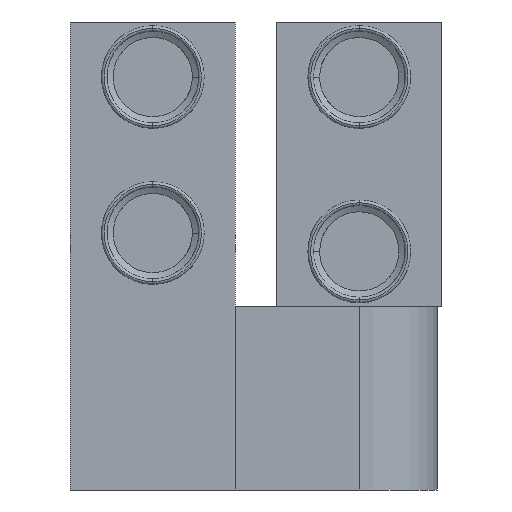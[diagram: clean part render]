
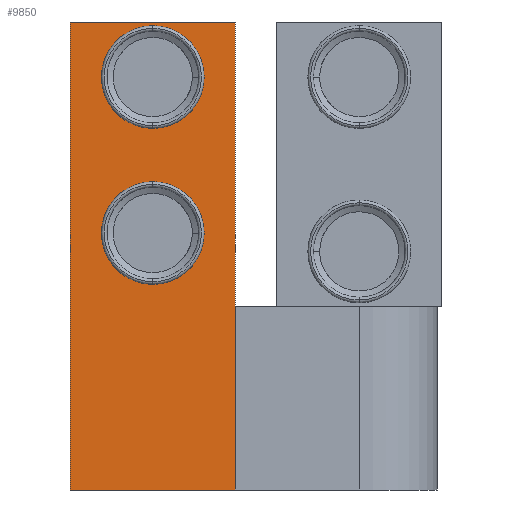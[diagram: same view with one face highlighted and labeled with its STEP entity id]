
A CAD part, front view. The second image highlights one B-rep face of the part: STEP entity #9850.
In plain terms, the highlighted planar face has unit normal (0, -1, 0).
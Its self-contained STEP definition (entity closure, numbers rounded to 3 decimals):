
#53 = VERTEX_POINT ( 'NONE', #2839 ) ;
#62 = DIRECTION ( 'NONE',  ( 0., -1., 0. ) ) ;
#113 = CARTESIAN_POINT ( 'NONE',  ( -3.819, -4.284, 12.75 ) ) ;
#149 = LINE ( 'NONE', #5270, #2324 ) ;
#269 = CIRCLE ( 'NONE', #1730, 2.8 ) ;
#612 = EDGE_LOOP ( 'NONE', ( #7406, #10111 ) ) ;
#773 = CARTESIAN_POINT ( 'NONE',  ( 0.681, -4.284, 12.55 ) ) ;
#892 = CARTESIAN_POINT ( 'NONE',  ( 5.181, -4.284, 12.75 ) ) ;
#1074 = DIRECTION ( 'NONE',  ( 0., 0., -1. ) ) ;
#1407 = VECTOR ( 'NONE', #1074, 1000. ) ;
#1501 = EDGE_CURVE ( 'NONE', #7723, #6616, #269, .T. ) ;
#1711 = LINE ( 'NONE', #5173, #11206 ) ;
#1730 = AXIS2_PLACEMENT_3D ( 'NONE', #10504, #6840, #11351 ) ;
#1808 = AXIS2_PLACEMENT_3D ( 'NONE', #11320, #8714, #2464 ) ;
#1819 = ORIENTED_EDGE ( 'NONE', *, *, #2996, .F. ) ;
#2077 = EDGE_LOOP ( 'NONE', ( #11340, #4410 ) ) ;
#2142 = CARTESIAN_POINT ( 'NONE',  ( 0.681, -4.284, -1.55 ) ) ;
#2324 = VECTOR ( 'NONE', #8856, 1000. ) ;
#2454 = ORIENTED_EDGE ( 'NONE', *, *, #4275, .T. ) ;
#2464 = DIRECTION ( 'NONE',  ( 0., 0., 1. ) ) ;
#2653 = CARTESIAN_POINT ( 'NONE',  ( -3.819, -4.284, 12.75 ) ) ;
#2839 = CARTESIAN_POINT ( 'NONE',  ( -3.819, -4.284, -12.75 ) ) ;
#2996 = EDGE_CURVE ( 'NONE', #8431, #10806, #149, .T. ) ;
#3027 = CARTESIAN_POINT ( 'NONE',  ( 5.181, -4.284, -12.75 ) ) ;
#3124 = CARTESIAN_POINT ( 'NONE',  ( 0.681, -4.284, 6.95 ) ) ;
#3126 = CARTESIAN_POINT ( 'NONE',  ( -3.819, -4.284, -12.75 ) ) ;
#3253 = DIRECTION ( 'NONE',  ( 0., 0., 1. ) ) ;
#3440 = CARTESIAN_POINT ( 'NONE',  ( 0.681, -4.284, 9.75 ) ) ;
#3603 = DIRECTION ( 'NONE',  ( 0., 0., 1. ) ) ;
#3716 = FACE_BOUND ( 'NONE', #612, .T. ) ;
#3968 = VECTOR ( 'NONE', #5780, 1000. ) ;
#4275 = EDGE_CURVE ( 'NONE', #8431, #53, #8191, .T. ) ;
#4410 = ORIENTED_EDGE ( 'NONE', *, *, #8314, .F. ) ;
#4873 = CIRCLE ( 'NONE', #10787, 2.8 ) ;
#5173 = CARTESIAN_POINT ( 'NONE',  ( 5.181, -4.284, 12.75 ) ) ;
#5270 = CARTESIAN_POINT ( 'NONE',  ( -3.819, -4.284, 12.75 ) ) ;
#5352 = FACE_BOUND ( 'NONE', #2077, .T. ) ;
#5589 = VERTEX_POINT ( 'NONE', #3027 ) ;
#5627 = DIRECTION ( 'NONE',  ( 0., -1., 0. ) ) ;
#5644 = EDGE_LOOP ( 'NONE', ( #8971, #7126, #1819, #2454 ) ) ;
#5739 = CARTESIAN_POINT ( 'NONE',  ( 0.681, -4.284, 9.75 ) ) ;
#5780 = DIRECTION ( 'NONE',  ( 1., 0., 0. ) ) ;
#5979 = VERTEX_POINT ( 'NONE', #773 ) ;
#6105 = DIRECTION ( 'NONE',  ( 0., 0., 1. ) ) ;
#6110 = EDGE_CURVE ( 'NONE', #10806, #5589, #1711, .T. ) ;
#6275 = CARTESIAN_POINT ( 'NONE',  ( -3.819, -4.284, 12.75 ) ) ;
#6535 = CIRCLE ( 'NONE', #1808, 2.8 ) ;
#6616 = VERTEX_POINT ( 'NONE', #7626 ) ;
#6656 = VERTEX_POINT ( 'NONE', #3124 ) ;
#6695 = CIRCLE ( 'NONE', #7270, 2.8 ) ;
#6840 = DIRECTION ( 'NONE',  ( 0., -1., 0. ) ) ;
#7126 = ORIENTED_EDGE ( 'NONE', *, *, #6110, .F. ) ;
#7136 = FACE_OUTER_BOUND ( 'NONE', #5644, .T. ) ;
#7270 = AXIS2_PLACEMENT_3D ( 'NONE', #3440, #62, #6105 ) ;
#7406 = ORIENTED_EDGE ( 'NONE', *, *, #7660, .F. ) ;
#7487 = EDGE_CURVE ( 'NONE', #5979, #6656, #6695, .T. ) ;
#7626 = CARTESIAN_POINT ( 'NONE',  ( 0.681, -4.284, 4.05 ) ) ;
#7660 = EDGE_CURVE ( 'NONE', #6616, #7723, #6535, .T. ) ;
#7723 = VERTEX_POINT ( 'NONE', #2142 ) ;
#8191 = LINE ( 'NONE', #6275, #1407 ) ;
#8314 = EDGE_CURVE ( 'NONE', #6656, #5979, #4873, .T. ) ;
#8431 = VERTEX_POINT ( 'NONE', #2653 ) ;
#8714 = DIRECTION ( 'NONE',  ( 0., -1., 0. ) ) ;
#8856 = DIRECTION ( 'NONE',  ( 1., 0., 0. ) ) ;
#8943 = DIRECTION ( 'NONE',  ( 0., 1., 0. ) ) ;
#8971 = ORIENTED_EDGE ( 'NONE', *, *, #10540, .T. ) ;
#9397 = AXIS2_PLACEMENT_3D ( 'NONE', #113, #8943, #3603 ) ;
#9717 = PLANE ( 'NONE',  #9397 ) ;
#9850 = ADVANCED_FACE ( 'NONE', ( #5352, #7136, #3716 ), #9717, .F. ) ;
#10111 = ORIENTED_EDGE ( 'NONE', *, *, #1501, .F. ) ;
#10504 = CARTESIAN_POINT ( 'NONE',  ( 0.681, -4.284, 1.25 ) ) ;
#10540 = EDGE_CURVE ( 'NONE', #53, #5589, #11215, .T. ) ;
#10627 = DIRECTION ( 'NONE',  ( 0., 0., -1. ) ) ;
#10787 = AXIS2_PLACEMENT_3D ( 'NONE', #5739, #5627, #3253 ) ;
#10806 = VERTEX_POINT ( 'NONE', #892 ) ;
#11206 = VECTOR ( 'NONE', #10627, 1000. ) ;
#11215 = LINE ( 'NONE', #3126, #3968 ) ;
#11320 = CARTESIAN_POINT ( 'NONE',  ( 0.681, -4.284, 1.25 ) ) ;
#11340 = ORIENTED_EDGE ( 'NONE', *, *, #7487, .F. ) ;
#11351 = DIRECTION ( 'NONE',  ( 0., 0., 1. ) ) ;
